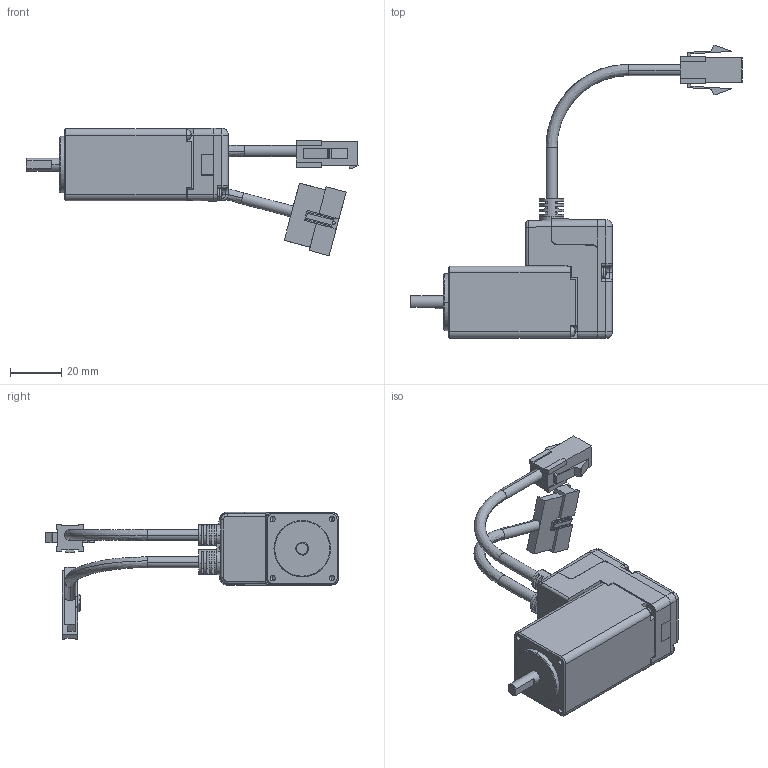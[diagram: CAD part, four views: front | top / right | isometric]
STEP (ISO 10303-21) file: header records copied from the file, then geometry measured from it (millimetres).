
FILE_DESCRIPTION (( 'STEP AP203' ), '1' );
FILE_NAME ('P11-MO-028-14-R00.STEP', '2018-01-17T09:08:22', ( '' ), ( '' ), 'SwSTEP 2.0', 'SolidWorks 2013', '' );
FILE_SCHEMA (( 'CONFIG_CONTROL_DESIGN' ));
Length unit declared in the file: millimetre
Products named in the file (10): 28阿 浚内歹 啊悼屈 纳捞喉_钎霖; pan cross head_ks_KS 1023 PC- M2.6 x 16-N; pan cross head_ks_KS 1023 PC- M2 x 20-N; M11-MO-028-11-R00; 532530670; P11-MO-028-14-R00; M11-EC-028-01-R00; M11-EC-028-02-R00; 28阿 葛磐 啊悼屈 纳捞喉_钎霖
Assembly tree (11 placements, depth 3):
  P11-MO-028-14-R00
    532530670
    M11-EC-028-01-R00
    M11-EC-028-02-R00
    28阿 葛磐 啊悼屈 纳捞喉_钎霖
    28阿 浚内歹 啊悼屈 纳捞喉_钎霖
    pan cross head_ks_KS 1023 PC- M2.6 x 16-N  x2
    pan cross head_ks_KS 1023 PC- M2 x 20-N
    M11-MO-028-11-R00
      M11-MO-028-11-R00
      532530670
Bounding box: 129 x 113.98 x 49.52 mm (x, y, z)
Volume: 54700.6 mm3; surface area: 29026 mm2
Topology: 10 solids, 10 shells, 1254 faces, 3260 edges, 2068 vertices
Faces by surface type: plane 865, cylinder 235, cone 81, bspline 35, torus 20, sphere 18
Entity records: 32677 total; most frequent: CARTESIAN_POINT 7983, ORIENTED_EDGE 4970, DIRECTION 4840, EDGE_CURVE 2485, VECTOR 1684, LINE 1684, VERTEX_POINT 1593, AXIS2_PLACEMENT_3D 1578
